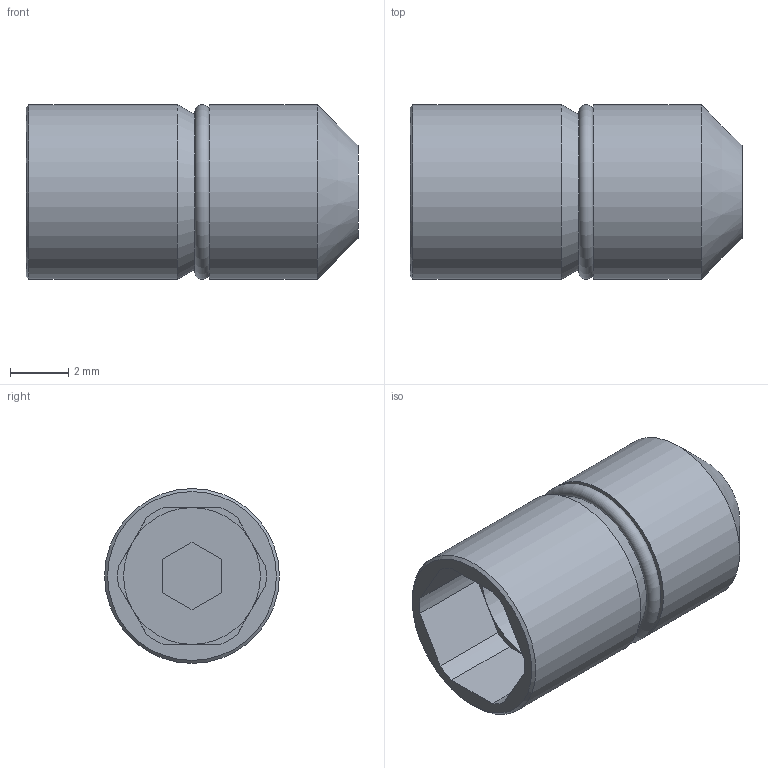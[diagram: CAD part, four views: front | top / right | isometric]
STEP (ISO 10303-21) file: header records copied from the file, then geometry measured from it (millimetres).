
FILE_DESCRIPTION( ( 'STEP AP214' ), '1' );
FILE_NAME( 'p:/temp/worker_240/temp/exporttempdir_1400_409_AvBjH/format_0/TRI-6C.stp', '2021-02-05T19:22:45', ( 'License CC BY-ND 4.0' ), ( 'CADENAS' ), ' ', 'PARTsolutions', ' ' );
FILE_SCHEMA( ( 'AUTOMOTIVE_DESIGN { 1 0 10303 214 1 1 1 1 }' ) );
Length unit declared in the file: millimetre
Products named in the file (1): _TRI-6C
Bounding box: 11.4 x 6 x 6 mm (x, y, z)
Volume: 208.2 mm3; surface area: 366 mm2
Topology: 1 solids, 1 shells, 36 faces, 82 edges, 51 vertices
Faces by surface type: plane 23, cylinder 9, cone 3, torus 1
Full cylindrical faces by diameter (mm): 4.7 x1, 6 x2
Entity records: 1278 total; most frequent: DIRECTION 176, CARTESIAN_POINT 164, ORIENTED_EDGE 150, EDGE_CURVE 75, AXIS2_PLACEMENT_3D 64, VERTEX_POINT 52, LINE 48, VECTOR 48
